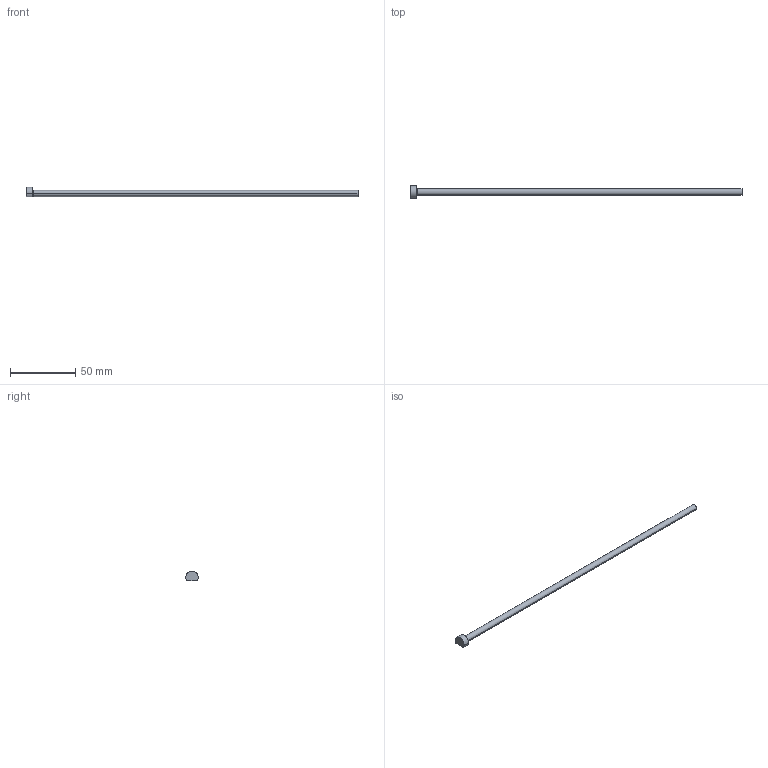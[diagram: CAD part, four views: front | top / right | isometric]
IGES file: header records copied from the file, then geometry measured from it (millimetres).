
Start section: SolidWorks IGES file using analytic representation for surfaces
Global section: file name: C:\Users\Ryan\Documents\PCS\Ejector Pins - D Headed Nitrided\DNP13\DNP13-10\DNP13-10.igs; native system: SolidWorks 2009; preprocessor: SolidWorks 2009; author: Ryan; date: 140307.203235; units: inch
Bounding box: 254 x 9.53 x 7.3 mm (x, y, z)
Surface area: 3977 mm2 (no closed solid volume)
Topology: 0 solids, 0 shells, 11 faces, 167 edges, 167 vertices
Faces by surface type: bspline 6, revolution 5
